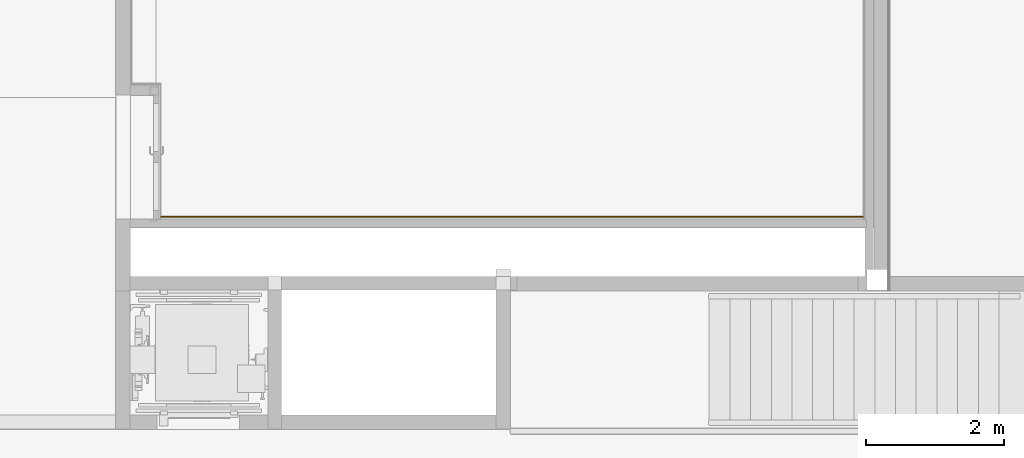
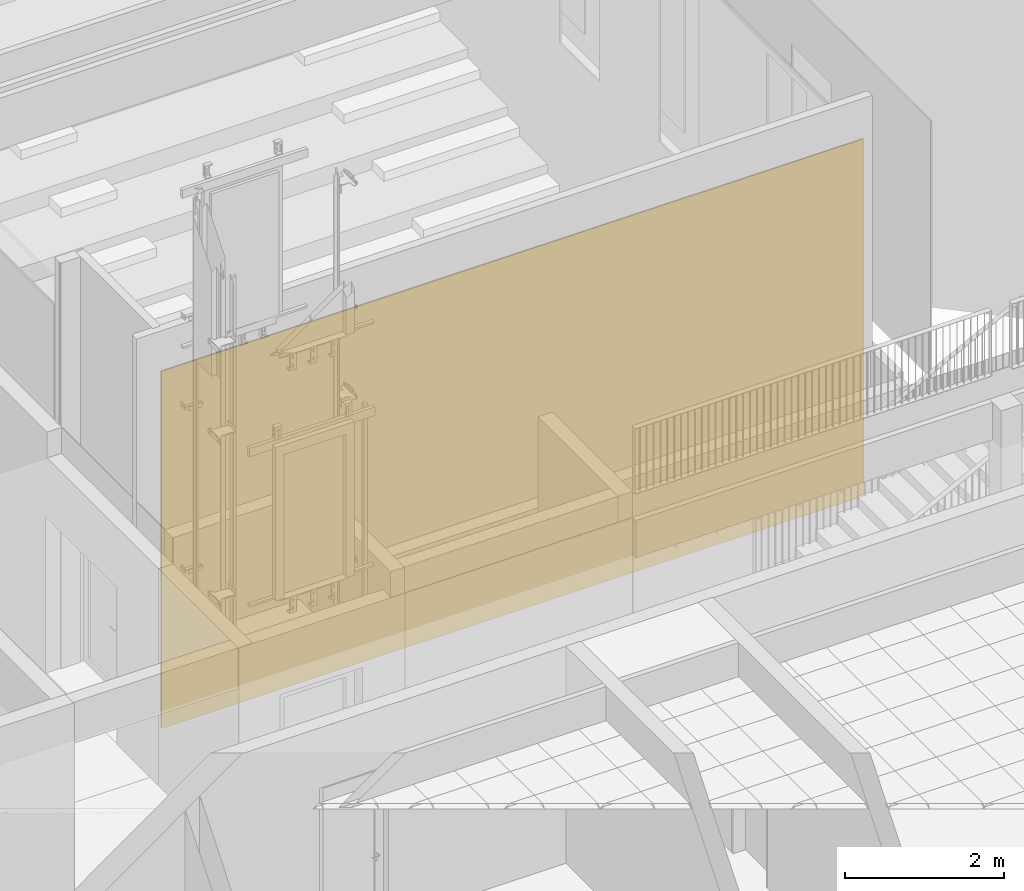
# One storey, part 169 of 246: 1 covering.
"""IFC2X3 building model written with IfcOpenShell, lengths in millimetres."""

from ifc_helpers import new_model, entity, si_unit, converted_unit, derived_unit, money_unit, direction, frame, origin_with_axes, place, context, subcontext, project, spatial, faceted_brep, material, type_object, element, save


model = new_model("IFC2X3")

# Units and contexts
model_context = context("Model", 3, precision=0.01, world=origin_with_axes(), true_north=direction((0.0, 1.0)))
body_context = subcontext(model_context, "Body", "Model", "MODEL_VIEW")
ifc_project = project(units=[si_unit("LENGTHUNIT", "METRE", prefix="MILLI"), si_unit("AREAUNIT", "SQUARE_METRE"), si_unit("VOLUMEUNIT", "CUBIC_METRE"), converted_unit("PLANEANGLEUNIT", "DEGREE", entity("IfcPlaneAngleMeasure", 0.0174532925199), si_unit("PLANEANGLEUNIT", "RADIAN"), dimensions=[0, 0, 0, 0, 0, 0, 0]), si_unit("SOLIDANGLEUNIT", "STERADIAN"), money_unit("EUR"), converted_unit("TIMEUNIT", "Year", entity("IfcTimeMeasure", 31556926.0), si_unit("TIMEUNIT", "SECOND"), dimensions=[0, 0, 1, 0, 0, 0, 0]), si_unit("MASSUNIT", "GRAM", prefix="KILO"), si_unit("THERMODYNAMICTEMPERATUREUNIT", "DEGREE_CELSIUS"), si_unit("LUMINOUSINTENSITYUNIT", "LUMEN"), si_unit("ENERGYUNIT", "JOULE", prefix="MEGA"), derived_unit("THERMALCONDUCTANCEUNIT", [(si_unit("POWERUNIT", "WATT"), 1), (si_unit("LENGTHUNIT", "METRE"), -1), (si_unit("THERMODYNAMICTEMPERATUREUNIT", "KELVIN"), -1)]), derived_unit("SPECIFICHEATCAPACITYUNIT", [(si_unit("ENERGYUNIT", "JOULE"), 1), (si_unit("MASSUNIT", "GRAM", prefix="KILO"), -1), (si_unit("THERMODYNAMICTEMPERATUREUNIT", "KELVIN"), -1)]), derived_unit("MASSDENSITYUNIT", [(si_unit("MASSUNIT", "GRAM", prefix="KILO"), 1), (si_unit("VOLUMEUNIT", "CUBIC_METRE"), -1)])], contexts=[model_context])

# Site, building, storey
site_placement = place(None, origin_with_axes())
site = spatial("IfcSite", under=ifc_project, at=site_placement, Name="L.Koidula tn 11b", CompositionType="ELEMENT")
building_placement = place(site_placement, origin_with_axes())
building = spatial("IfcBuilding", under=site, at=building_placement, Name="Rakvere Riigigümnaasium", CompositionType="ELEMENT")
storey_placement = place(building_placement, origin_with_axes())
storey = spatial("IfcBuildingStorey", under=building, at=storey_placement, Name="1.korrus 0,00", CompositionType="ELEMENT", Elevation=0.0)

# Covering
ifc_material = material(Name="MDF")
covering_type = type_object("IfcCoveringType", Name="MDF 20", PredefinedType="CLADDING")
covering_placement = place(storey_placement, frame((57845.0348101, 18163.4555066, 0.0), z_axis=(0.0, 0.0, 1.0), x_axis=(-1.0, 0.0, 0.0)))
element("IfcCovering", 1, at=covering_placement, inside=storey, type_object=covering_type, material=ifc_material, Name="S-05", PredefinedType="CLADDING", context=body_context, shape_type="Brep", body=[
    faceted_brep([(20.0, 0.0, 0.0), (10200.0348284, 0.0, 0.0), (10200.0348284, -20.0, 0.0), (20.0, -20.0, 0.0), (20.0, 0.0, 5476.73863187), (10200.0348284, 0.0, 5476.73863187), (10200.0348284, -20.0, 5476.73863187), (20.0, -20.0, 5476.73863187)], [[[0, 1, 2, 3]], [[4, 5, 1, 0]], [[6, 2, 1, 5]], [[3, 2, 6, 7]], [[7, 4, 0, 3]], [[7, 6, 5, 4]]]),
])

save(model, "model.ifc")
